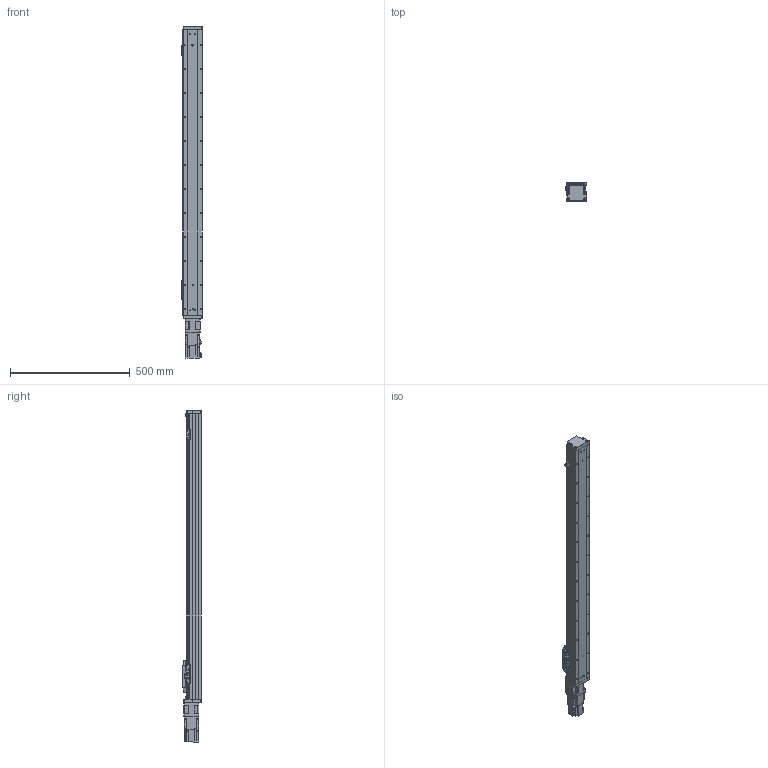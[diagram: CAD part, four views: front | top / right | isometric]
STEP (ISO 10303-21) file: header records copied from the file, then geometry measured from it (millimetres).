
FILE_DESCRIPTION (( 'STEP AP203' ), '1' );
FILE_NAME ('20.STEP', '2021-01-04T06:05:04', ( '' ), ( '' ), 'SwSTEP 2.0', 'SolidWorks 2016', '' );
FILE_SCHEMA (( 'CONFIG_CONTROL_DESIGN' ));
Length unit declared in the file: millimetre
Products named in the file (11): CTH8-BC-HZ; CTH8-BC-02; CTH8-BC-T20; CTH8-BC-07; CTH8-BC-05; PM-Y45; CTH8-BC-菁釱; 20; CTH8-BC-01; CTH8-BC-03; CTH8-BC-04
Assembly tree (15 placements, depth 2):
  20
    CTH8-BC-菁釱
    CTH8-BC-01
    CTH8-BC-02
    CTH8-BC-03
    CTH8-BC-04
    CTH8-BC-05  x2
    CTH8-BC-07  x3
    CTH8-BC-HZ
    CTH8-BC-T20
    PM-Y45  x3
Bounding box: 87 x 78 x 1383.5 mm (x, y, z)
Volume: 5424101.1 mm3; surface area: 748175.2 mm2
Topology: 25 solids, 25 shells, 1676 faces, 4602 edges, 2919 vertices
Faces by surface type: plane 777, cylinder 647, cone 140, bspline 90, torus 18, sphere 4
Entity records: 53085 total; most frequent: CARTESIAN_POINT 15601, ORIENTED_EDGE 7880, DIRECTION 6984, EDGE_CURVE 3940, VERTEX_POINT 2519, AXIS2_PLACEMENT_3D 2334, VECTOR 2316, LINE 2316
